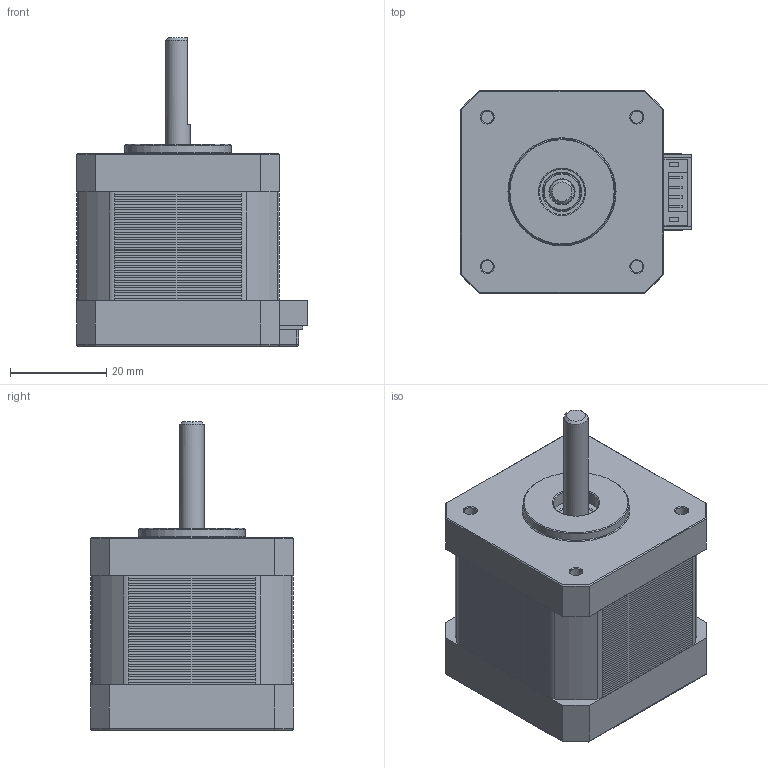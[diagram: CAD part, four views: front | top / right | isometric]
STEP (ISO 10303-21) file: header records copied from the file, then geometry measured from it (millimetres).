
FILE_DESCRIPTION(/* description */ (''),/* implementation_level */ '2;1');
FILE_NAME(/* name */ 'C:/Users/User/Desktop/Nema_17-17HS4401 v1.step',/* time_stamp */ '2020-09-21T13:42:40+08:00',/* author */ (''),/* organization */ (''),/* preprocessor_version */ 'ST-DEVELOPER v18.1',/* originating_system */ 'Autodesk Translation Framework v9.3.0.1241',/* authorisation */ '');
FILE_SCHEMA (('AUTOMOTIVE_DESIGN { 1 0 10303 214 3 1 1 }'));
Length unit declared in the file: millimetre
Products named in the file (23): Nema_17-17HS4401; Nema_17-17HS4401_1; Frontplate; Screws; M3x30-Screw_001; M3x30-Screw_002; M3x30-Screw_003; M3x30-Screw_004; ConnectrorBody; PCB; Insulation; Stator; Baseplate; BallBearing1; BallBearing2; Axis&Rotor; ConnectorPins; SOLID; SOLID001; SOLID002; SOLID003; SOLID004; SOLID005
Assembly tree (22 placements, depth 4):
  Nema_17-17HS4401
    Nema_17-17HS4401_1
      Frontplate
      Screws
        M3x30-Screw_001
        M3x30-Screw_002
        M3x30-Screw_003
        M3x30-Screw_004
      ConnectrorBody
      PCB
      Insulation
      Stator
      Baseplate
      BallBearing1
      BallBearing2
      Axis&Rotor
      ConnectorPins
        SOLID
        SOLID001
        SOLID002
        SOLID003
        SOLID004
        SOLID005
Bounding box: 47.8 x 42 x 64 mm (x, y, z)
Volume: 66374.5 mm3; surface area: 28056.7 mm2
Topology: 19 solids, 19 shells, 741 faces, 1937 edges, 1251 vertices
Faces by surface type: plane 607, cylinder 65, cone 58, sphere 6, torus 5
Full cylindrical faces by diameter (mm): 2.5 x4, 3 x4, 3.1 x4, 3.3 x4, 5 x4, 5.6 x4, 6.1 x4, 8 x2, 9.4 x2, 16 x4, 22 x1, 29 x1, 30 x1
Entity records: 25282 total; most frequent: CARTESIAN_POINT 6284, ORIENTED_EDGE 3862, DIRECTION 3687, EDGE_CURVE 1931, LINE 1551, VECTOR 1551, VERTEX_POINT 1251, AXIS2_PLACEMENT_3D 1068
